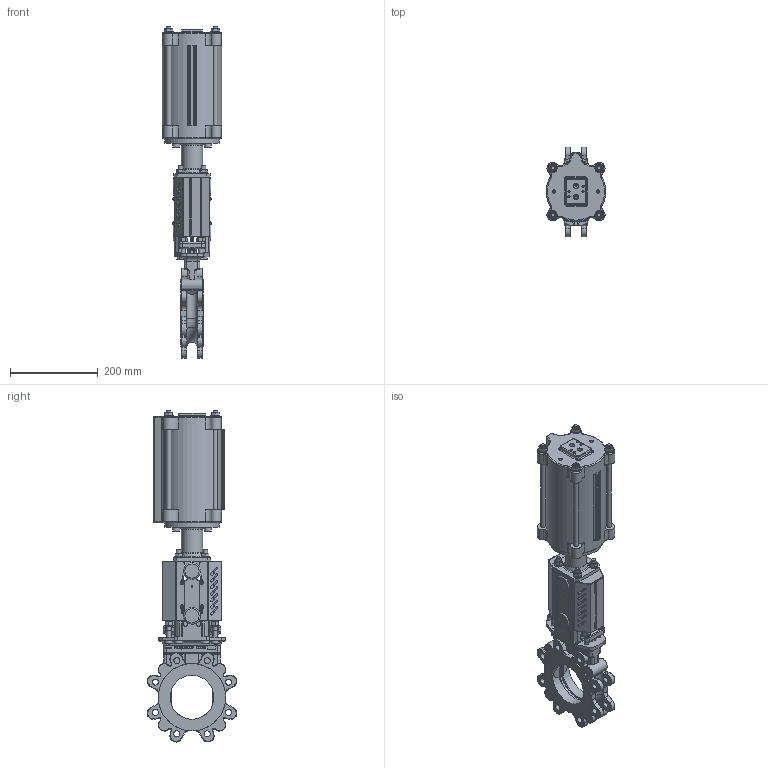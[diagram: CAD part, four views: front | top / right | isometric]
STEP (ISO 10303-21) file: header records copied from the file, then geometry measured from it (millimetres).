
FILE_DESCRIPTION(/* description */ (''),/* implementation_level */ '2;1');
FILE_NAME(/* name */ 'F:\Emir\3D-block special\WB\WB14E-DN100-PN10-FRSC125-115.stp',/* time_stamp */ '2018-04-17T11:14:57+02:00',/* author */ ('emimus'),/* organization */ (''),/* preprocessor_version */ 'ST-DEVELOPER v17',/* originating_system */ 'Autodesk Inventor 2018',/* authorisation */ '');
FILE_SCHEMA (('CONFIG_CONTROL_DESIGN'));
Products named in the file (1): WB14E-DN100-PN10-FRSC125-115
Bounding box: 135 x 203.52 x 754.76 mm (x, y, z)
Volume: 3135658.5 mm3; surface area: 891331.6 mm2
Topology: 2 solids, 2 shells, 3135 faces, 8226 edges, 5180 vertices
Faces by surface type: plane 1316, cylinder 785, bspline 435, torus 314, cone 221, sphere 64
Full cylindrical faces by diameter (mm): 3 x5, 3.6 x2, 4 x6, 4.134 x4, 4.2 x16, 4.5 x8, 6 x2, 6.4 x2, 6.647 x2, 7 x1, 8 x7, 8.2 x4, 8.376 x4, 9 x2, 10 x34, 10.5 x12, 11 x16, 11.445 x2, 13 x4, 13.835 x16, 15 x6, 16 x6, 17.7 x1, 18 x2, 18.376 x1, 20 x13, 24 x4, 28 x4, 30 x1, 30.1 x2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
Entity records: 106347 total; most frequent: CARTESIAN_POINT 30608, ORIENTED_EDGE 16336, DIRECTION 15367, EDGE_CURVE 8168, AXIS2_PLACEMENT_3D 5797, VERTEX_POINT 5180, LINE 3773, VECTOR 3773
